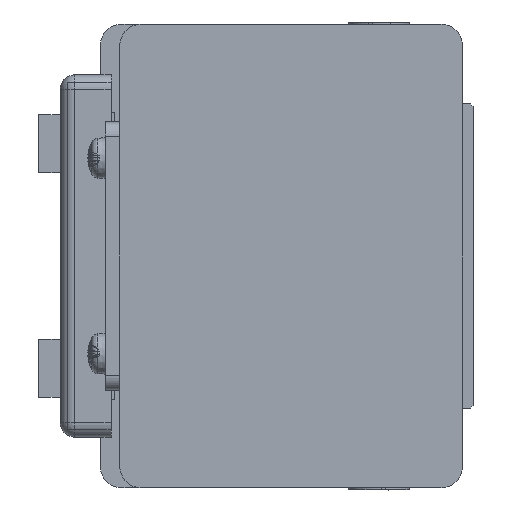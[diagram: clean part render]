
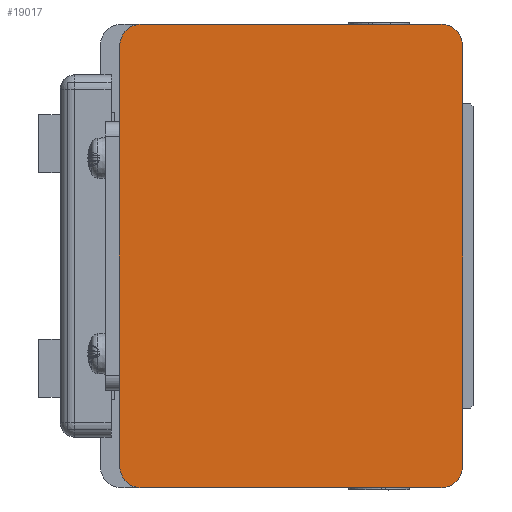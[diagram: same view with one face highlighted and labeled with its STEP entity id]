
A CAD part, left-side view. The second image highlights one B-rep face of the part: STEP entity #19017.
In plain terms, the highlighted planar face has unit normal (-1, 0, 0) as drawn and (0, 0, -1) by its records, which use the part's own axes.
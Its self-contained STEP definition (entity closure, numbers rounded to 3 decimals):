
#779=LINE('',#26883,#2431);
#794=LINE('',#26925,#2446);
#839=LINE('',#27034,#2491);
#861=LINE('',#27103,#2513);
#874=LINE('',#27138,#2526);
#875=LINE('',#27141,#2527);
#876=LINE('',#27142,#2528);
#877=LINE('',#27147,#2529);
#2431=VECTOR('',#21973,19.);
#2446=VECTOR('',#22006,41.3);
#2491=VECTOR('',#22095,41.3);
#2513=VECTOR('',#22155,19.);
#2526=VECTOR('',#22190,0.1);
#2527=VECTOR('',#22193,20.);
#2528=VECTOR('',#22194,0.1);
#2529=VECTOR('',#22199,58.);
#4238=PLANE('',#20263);
#5066=FACE_OUTER_BOUND('',#6188,.T.);
#6188=EDGE_LOOP('',(#12794,#12795,#12796,#12797,#12798,#12799,#12800,#12801,
#12802,#12803,#12804,#12805));
#7442=CIRCLE('',#20264,3.);
#7443=CIRCLE('',#20265,3.);
#7444=CIRCLE('',#20266,3.);
#7445=CIRCLE('',#20267,3.);
#7999=VERTEX_POINT('',#26880);
#8000=VERTEX_POINT('',#26882);
#8017=VERTEX_POINT('',#26922);
#8018=VERTEX_POINT('',#26924);
#8059=VERTEX_POINT('',#27031);
#8060=VERTEX_POINT('',#27033);
#8087=VERTEX_POINT('',#27100);
#8088=VERTEX_POINT('',#27102);
#8099=VERTEX_POINT('',#27136);
#8100=VERTEX_POINT('',#27140);
#8101=VERTEX_POINT('',#27144);
#8102=VERTEX_POINT('',#27146);
#9860=EDGE_CURVE('',#8000,#7999,#779,.T.);
#9881=EDGE_CURVE('',#8018,#8017,#794,.T.);
#9936=EDGE_CURVE('',#8060,#8059,#839,.T.);
#9970=EDGE_CURVE('',#8088,#8087,#861,.T.);
#9989=EDGE_CURVE('',#8099,#7999,#874,.T.);
#9990=EDGE_CURVE('',#8100,#8099,#875,.T.);
#9991=EDGE_CURVE('',#8088,#8100,#876,.T.);
#9992=EDGE_CURVE('',#8087,#8060,#7442,.T.);
#9993=EDGE_CURVE('',#8059,#8101,#7443,.T.);
#9994=EDGE_CURVE('',#8101,#8102,#877,.T.);
#9995=EDGE_CURVE('',#8102,#8018,#7444,.T.);
#9996=EDGE_CURVE('',#8017,#8000,#7445,.T.);
#12794=ORIENTED_EDGE('',*,*,#9860,.T.);
#12795=ORIENTED_EDGE('',*,*,#9989,.F.);
#12796=ORIENTED_EDGE('',*,*,#9990,.F.);
#12797=ORIENTED_EDGE('',*,*,#9991,.F.);
#12798=ORIENTED_EDGE('',*,*,#9970,.T.);
#12799=ORIENTED_EDGE('',*,*,#9992,.T.);
#12800=ORIENTED_EDGE('',*,*,#9936,.T.);
#12801=ORIENTED_EDGE('',*,*,#9993,.T.);
#12802=ORIENTED_EDGE('',*,*,#9994,.T.);
#12803=ORIENTED_EDGE('',*,*,#9995,.T.);
#12804=ORIENTED_EDGE('',*,*,#9881,.T.);
#12805=ORIENTED_EDGE('',*,*,#9996,.T.);
#19017=ADVANCED_FACE('',(#5066),#4238,.F.);
#20263=AXIS2_PLACEMENT_3D('',#27139,#22191,#22192);
#20264=AXIS2_PLACEMENT_3D('',#27143,#22195,#22196);
#20265=AXIS2_PLACEMENT_3D('',#27145,#22197,#22198);
#20266=AXIS2_PLACEMENT_3D('',#27148,#22200,#22201);
#20267=AXIS2_PLACEMENT_3D('',#27149,#22202,#22203);
#21973=DIRECTION('',(1.,0.,0.));
#22006=DIRECTION('',(0.,1.,0.));
#22095=DIRECTION('',(0.,-1.,0.));
#22155=DIRECTION('',(1.,0.,0.));
#22190=DIRECTION('',(0.,-1.,0.));
#22191=DIRECTION('center_axis',(0.,0.,1.));
#22192=DIRECTION('ref_axis',(1.,0.,0.));
#22193=DIRECTION('',(-1.,0.,0.));
#22194=DIRECTION('',(0.,1.,0.));
#22195=DIRECTION('center_axis',(0.,0.,-1.));
#22196=DIRECTION('ref_axis',(-1.,0.,0.));
#22197=DIRECTION('center_axis',(0.,0.,-1.));
#22198=DIRECTION('ref_axis',(0.,1.,0.));
#22199=DIRECTION('',(-1.,0.,0.));
#22200=DIRECTION('center_axis',(0.,0.,-1.));
#22201=DIRECTION('ref_axis',(1.,0.,0.));
#22202=DIRECTION('center_axis',(0.,0.,-1.));
#22203=DIRECTION('ref_axis',(0.,-1.,0.));
#26880=CARTESIAN_POINT('',(22.,48.8,-642.));
#26882=CARTESIAN_POINT('',(3.,48.8,-642.));
#26883=CARTESIAN_POINT('',(3.,48.8,-642.));
#26922=CARTESIAN_POINT('',(0.,45.8,-642.));
#26924=CARTESIAN_POINT('',(0.,4.5,-642.));
#26925=CARTESIAN_POINT('',(0.,4.5,-642.));
#27031=CARTESIAN_POINT('',(64.,4.5,-642.));
#27033=CARTESIAN_POINT('',(64.,45.8,-642.));
#27034=CARTESIAN_POINT('',(64.,45.8,-642.));
#27100=CARTESIAN_POINT('',(61.,48.8,-642.));
#27102=CARTESIAN_POINT('',(42.,48.8,-642.));
#27103=CARTESIAN_POINT('',(42.,48.8,-642.));
#27136=CARTESIAN_POINT('',(22.,48.9,-642.));
#27138=CARTESIAN_POINT('',(22.,48.9,-642.));
#27139=CARTESIAN_POINT('Origin',(32.,25.15,-642.));
#27140=CARTESIAN_POINT('',(42.,48.9,-642.));
#27141=CARTESIAN_POINT('',(42.,48.9,-642.));
#27142=CARTESIAN_POINT('',(42.,48.8,-642.));
#27143=CARTESIAN_POINT('Origin',(61.,45.8,-642.));
#27144=CARTESIAN_POINT('',(61.,1.5,-642.));
#27145=CARTESIAN_POINT('Origin',(61.,4.5,-642.));
#27146=CARTESIAN_POINT('',(3.,1.5,-642.));
#27147=CARTESIAN_POINT('',(61.,1.5,-642.));
#27148=CARTESIAN_POINT('Origin',(3.,4.5,-642.));
#27149=CARTESIAN_POINT('Origin',(3.,45.8,-642.));
